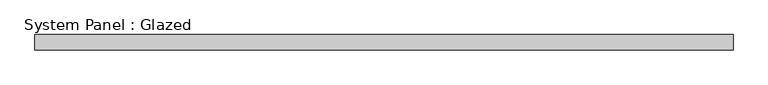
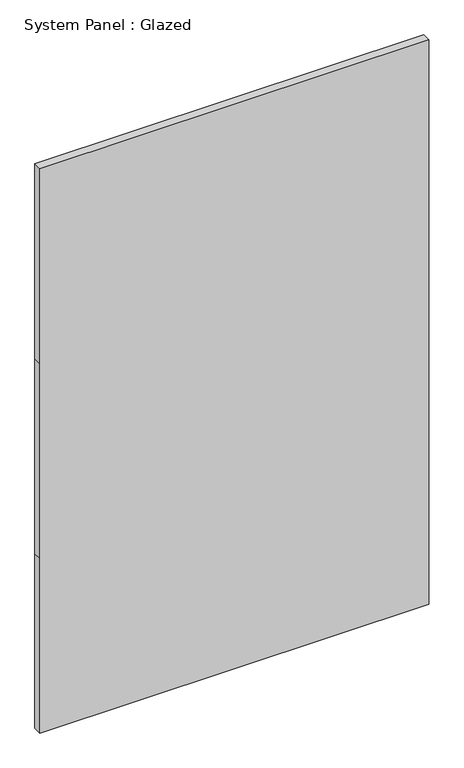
"""IFC4 building model written with IfcOpenShell, lengths in millimetres: plate geometry, System Panel : Glazed."""

from ifc_helpers import new_model, si_unit, frame, origin, place, context, project, spatial, polyline, outline, extrude, source, transform, mapped, element, save


def system_panel_glazed_17ceb642(model_context):
    return source(origin(), model_context, "Body", "SweptSolid", [
        extrude(outline(polyline([(0.0, -575.3099999), (0.0, 575.3099999), (546.1, 575.3099999), (1155.7, 575.3099999), (1765.3, 575.3099999), (1765.3, -575.3099999), (1155.7, -575.3099999), (546.1, -575.3099999), (0.0, -575.3099999)])), frame((0.0, 19.05, 0.0), z_axis=(0.0, 1.0, 0.0), x_axis=(0.0, 0.0, 1.0)), (0.0, 0.0, 1.0), 25.4),
    ])


if __name__ == "__main__":
    model = new_model("IFC4")
    model_context = context("Model", 3, world=origin())
    ifc_project = project(units=[si_unit("LENGTHUNIT", "METRE", prefix="MILLI")], contexts=[model_context])
    site = spatial("IfcSite", under=ifc_project)
    building = spatial("IfcBuilding", under=site)
    placement = place(None, origin())
    system_panel_glazed_shape = system_panel_glazed_17ceb642(model_context)
    element("IfcPlate", 1, ObjectType="System Panel : Glazed", at=placement, inside=building, context=model_context, shape_type="MappedRepresentation", body=[
        mapped(system_panel_glazed_shape, transform((0.0, 0.0, 0.0), x_axis=(1.0, 0.0, 0.0), y_axis=(0.0, 1.0, 0.0), z_axis=(0.0, 0.0, 1.0))),
    ])
    save(model, "model.ifc")
